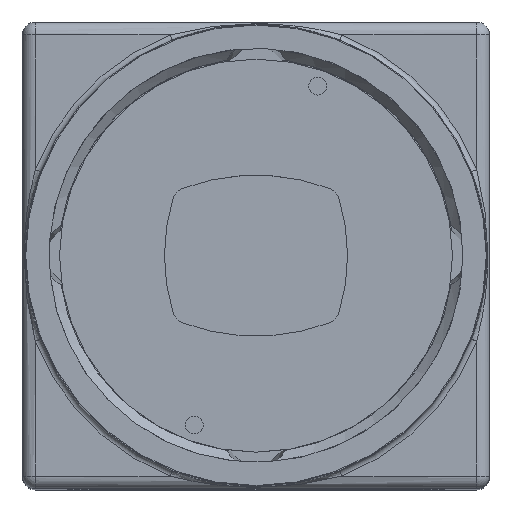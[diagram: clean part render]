
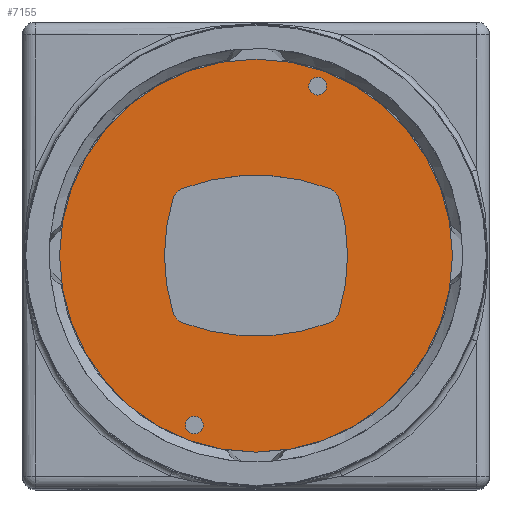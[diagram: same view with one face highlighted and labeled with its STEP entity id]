
A CAD part, top view. The second image highlights one B-rep face of the part: STEP entity #7155.
In plain terms, the highlighted planar face has unit normal (0, 0, 1).
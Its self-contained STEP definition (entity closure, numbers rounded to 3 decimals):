
#7155 = ADVANCED_FACE( '', ( #17466, #17467, #17468, #17469 ), #17470, .F. );
#17466 = FACE_BOUND( '', #32265, .T. );
#17467 = FACE_BOUND( '', #32266, .T. );
#17468 = FACE_BOUND( '', #32267, .T. );
#17469 = FACE_OUTER_BOUND( '', #32268, .T. );
#17470 = PLANE( '', #32269 );
#32265 = EDGE_LOOP( '', ( #50880 ) );
#32266 = EDGE_LOOP( '', ( #50881 ) );
#32267 = EDGE_LOOP( '', ( #50882, #50883, #50884, #50885, #50886, #50887, #50888, #50889 ) );
#32268 = EDGE_LOOP( '', ( #50890 ) );
#32269 = AXIS2_PLACEMENT_3D( '', #50891, #50892, #50893 );
#50880 = ORIENTED_EDGE( '', *, *, #65879, .T. );
#50881 = ORIENTED_EDGE( '', *, *, #65880, .T. );
#50882 = ORIENTED_EDGE( '', *, *, #65881, .T. );
#50883 = ORIENTED_EDGE( '', *, *, #65882, .T. );
#50884 = ORIENTED_EDGE( '', *, *, #63159, .T. );
#50885 = ORIENTED_EDGE( '', *, *, #65883, .T. );
#50886 = ORIENTED_EDGE( '', *, *, #65862, .T. );
#50887 = ORIENTED_EDGE( '', *, *, #65884, .T. );
#50888 = ORIENTED_EDGE( '', *, *, #65161, .T. );
#50889 = ORIENTED_EDGE( '', *, *, #65885, .T. );
#50890 = ORIENTED_EDGE( '', *, *, #65886, .F. );
#50891 = CARTESIAN_POINT( '', ( 1.907, 5.239, 5.8 ) );
#50892 = DIRECTION( '', ( 0., 0., -1. ) );
#50893 = DIRECTION( '', ( -1., 0., 0. ) );
#63159 = EDGE_CURVE( '', #68306, #68307, #68308, .T. );
#65161 = EDGE_CURVE( '', #71445, #71446, #71447, .T. );
#65862 = EDGE_CURVE( '', #72452, #72453, #72454, .T. );
#65879 = EDGE_CURVE( '', #72476, #72476, #72477, .T. );
#65880 = EDGE_CURVE( '', #72478, #72478, #72479, .T. );
#65881 = EDGE_CURVE( '', #72480, #72481, #72482, .T. );
#65882 = EDGE_CURVE( '', #72481, #68306, #72483, .T. );
#65883 = EDGE_CURVE( '', #68307, #72452, #72484, .T. );
#65884 = EDGE_CURVE( '', #72453, #71445, #72485, .T. );
#65885 = EDGE_CURVE( '', #71446, #72480, #72486, .T. );
#65886 = EDGE_CURVE( '', #72487, #72487, #72488, .T. );
#68306 = VERTEX_POINT( '', #75407 );
#68307 = VERTEX_POINT( '', #75408 );
#68308 = CIRCLE( '', #75409, 13. );
#71445 = VERTEX_POINT( '', #80451 );
#71446 = VERTEX_POINT( '', #80452 );
#71447 = CIRCLE( '', #80453, 13. );
#72452 = VERTEX_POINT( '', #82198 );
#72453 = VERTEX_POINT( '', #82199 );
#72454 = CIRCLE( '', #82200, 12. );
#72476 = VERTEX_POINT( '', #82228 );
#72477 = CIRCLE( '', #82229, 0.55 );
#72478 = VERTEX_POINT( '', #82230 );
#72479 = CIRCLE( '', #82231, 0.55 );
#72480 = VERTEX_POINT( '', #82232 );
#72481 = VERTEX_POINT( '', #82233 );
#72482 = CIRCLE( '', #82234, 12. );
#72483 = CIRCLE( '', #82235, 1. );
#72484 = CIRCLE( '', #82236, 1. );
#72485 = CIRCLE( '', #82237, 1. );
#72486 = CIRCLE( '', #82238, 1. );
#72487 = VERTEX_POINT( '', #82239 );
#72488 = CIRCLE( '', #82240, 12.2 );
#75407 = CARTESIAN_POINT( '', ( 4.548, -4.179, 5.8 ) );
#75408 = CARTESIAN_POINT( '', ( -4.548, -4.179, 5.8 ) );
#75409 = AXIS2_PLACEMENT_3D( '', #86459, #86460, #86461 );
#80451 = CARTESIAN_POINT( '', ( -4.548, 4.179, 5.8 ) );
#80452 = CARTESIAN_POINT( '', ( 4.548, 4.179, 5.8 ) );
#80453 = AXIS2_PLACEMENT_3D( '', #88567, #88568, #88569 );
#82198 = CARTESIAN_POINT( '', ( -5.153, -3.537, 5.8 ) );
#82199 = CARTESIAN_POINT( '', ( -5.153, 3.537, 5.8 ) );
#82200 = AXIS2_PLACEMENT_3D( '', #89292, #89293, #89294 );
#82228 = CARTESIAN_POINT( '', ( -3.831, -11.075, 5.8 ) );
#82229 = AXIS2_PLACEMENT_3D( '', #89319, #89320, #89321 );
#82230 = CARTESIAN_POINT( '', ( 3.831, 9.975, 5.8 ) );
#82231 = AXIS2_PLACEMENT_3D( '', #89322, #89323, #89324 );
#82232 = CARTESIAN_POINT( '', ( 5.153, 3.537, 5.8 ) );
#82233 = CARTESIAN_POINT( '', ( 5.153, -3.537, 5.8 ) );
#82234 = AXIS2_PLACEMENT_3D( '', #89325, #89326, #89327 );
#82235 = AXIS2_PLACEMENT_3D( '', #89328, #89329, #89330 );
#82236 = AXIS2_PLACEMENT_3D( '', #89331, #89332, #89333 );
#82237 = AXIS2_PLACEMENT_3D( '', #89334, #89335, #89336 );
#82238 = AXIS2_PLACEMENT_3D( '', #89337, #89338, #89339 );
#82239 = CARTESIAN_POINT( '', ( -12.2, 0., 5.8 ) );
#82240 = AXIS2_PLACEMENT_3D( '', #89340, #89341, #89342 );
#86459 = CARTESIAN_POINT( '', ( 0., 8., 5.8 ) );
#86460 = DIRECTION( '', ( 0., 0., -1. ) );
#86461 = DIRECTION( '', ( 1., 0., 0. ) );
#88567 = CARTESIAN_POINT( '', ( 0., -8., 5.8 ) );
#88568 = DIRECTION( '', ( 0., 0., -1. ) );
#88569 = DIRECTION( '', ( 1., 0., 0. ) );
#89292 = CARTESIAN_POINT( '', ( 6.314, 0., 5.8 ) );
#89293 = DIRECTION( '', ( 0., 0., -1. ) );
#89294 = DIRECTION( '', ( 1., 0., 0. ) );
#89319 = CARTESIAN_POINT( '', ( -3.831, -10.525, 5.8 ) );
#89320 = DIRECTION( '', ( 0., 0., -1. ) );
#89321 = DIRECTION( '', ( 0., -1., 0. ) );
#89322 = CARTESIAN_POINT( '', ( 3.831, 10.525, 5.8 ) );
#89323 = DIRECTION( '', ( 0., 0., -1. ) );
#89324 = DIRECTION( '', ( 0., -1., 0. ) );
#89325 = CARTESIAN_POINT( '', ( -6.314, 0., 5.8 ) );
#89326 = DIRECTION( '', ( 0., 0., -1. ) );
#89327 = DIRECTION( '', ( -1., 0., 0. ) );
#89328 = CARTESIAN_POINT( '', ( 4.198, -3.242, 5.8 ) );
#89329 = DIRECTION( '', ( 0., 0., -1. ) );
#89330 = DIRECTION( '', ( -1., 0., 0. ) );
#89331 = CARTESIAN_POINT( '', ( -4.198, -3.242, 5.8 ) );
#89332 = DIRECTION( '', ( 0., 0., -1. ) );
#89333 = DIRECTION( '', ( -1., 0., 0. ) );
#89334 = CARTESIAN_POINT( '', ( -4.198, 3.242, 5.8 ) );
#89335 = DIRECTION( '', ( 0., 0., -1. ) );
#89336 = DIRECTION( '', ( -1., 0., 0. ) );
#89337 = CARTESIAN_POINT( '', ( 4.198, 3.242, 5.8 ) );
#89338 = DIRECTION( '', ( 0., 0., -1. ) );
#89339 = DIRECTION( '', ( -1., 0., 0. ) );
#89340 = CARTESIAN_POINT( '', ( 0., 0., 5.8 ) );
#89341 = DIRECTION( '', ( 0., 0., -1. ) );
#89342 = DIRECTION( '', ( -1., 0., 0. ) );
